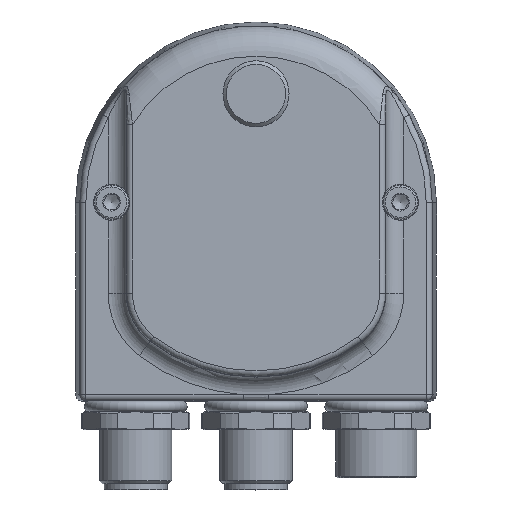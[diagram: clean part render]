
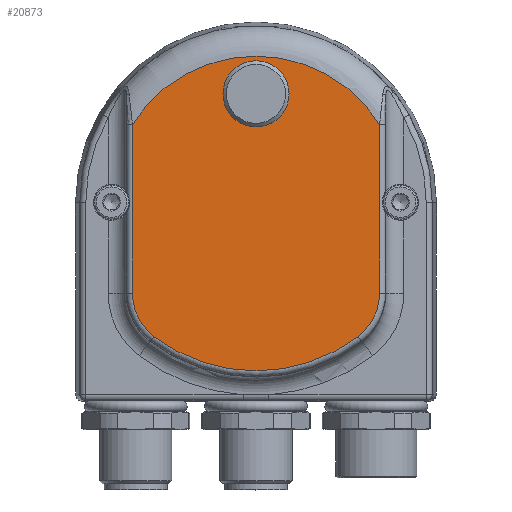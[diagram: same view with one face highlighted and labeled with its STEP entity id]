
A CAD part, top view. The second image highlights one B-rep face of the part: STEP entity #20873.
In plain terms, the highlighted planar face has unit normal (0, 0, 1).
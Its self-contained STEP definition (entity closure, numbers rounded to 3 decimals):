
#1109=PLANE('',#22256);
#1250=CIRCLE('',#21288,5.5);
#1646=CIRCLE('',#22257,24.265);
#1647=CIRCLE('',#22258,9.034);
#1648=CIRCLE('',#22259,28.034);
#1649=CIRCLE('',#22260,9.034);
#5113=ORIENTED_EDGE('',*,*,#6154,.T.);
#5114=ORIENTED_EDGE('',*,*,#7595,.T.);
#5115=ORIENTED_EDGE('',*,*,#7596,.T.);
#5116=ORIENTED_EDGE('',*,*,#7597,.T.);
#5117=ORIENTED_EDGE('',*,*,#7598,.T.);
#5118=ORIENTED_EDGE('',*,*,#7599,.T.);
#5119=ORIENTED_EDGE('',*,*,#7600,.T.);
#6154=EDGE_CURVE('',#8126,#8126,#1250,.T.);
#7595=EDGE_CURVE('',#9085,#9086,#10114,.T.);
#7596=EDGE_CURVE('',#9086,#9087,#1646,.T.);
#7597=EDGE_CURVE('',#9087,#9088,#10115,.T.);
#7598=EDGE_CURVE('',#9088,#9089,#1647,.T.);
#7599=EDGE_CURVE('',#9089,#9090,#1648,.T.);
#7600=EDGE_CURVE('',#9090,#9085,#1649,.T.);
#8126=VERTEX_POINT('',#27345);
#9085=VERTEX_POINT('',#36062);
#9086=VERTEX_POINT('',#36063);
#9087=VERTEX_POINT('',#36065);
#9088=VERTEX_POINT('',#36067);
#9089=VERTEX_POINT('',#36069);
#9090=VERTEX_POINT('',#36071);
#10114=LINE('',#36061,#10982);
#10115=LINE('',#36066,#10983);
#10982=VECTOR('',#25784,1000.);
#10983=VECTOR('',#25787,1000.);
#11974=EDGE_LOOP('',(#5113));
#11975=EDGE_LOOP('',(#5114,#5115,#5116,#5117,#5118,#5119));
#13127=FACE_BOUND('',#11974,.T.);
#13128=FACE_BOUND('',#11975,.T.);
#20873=ADVANCED_FACE('',(#13127,#13128),#1109,.T.);
#21288=AXIS2_PLACEMENT_3D('',#27344,#23128,#23129);
#22256=AXIS2_PLACEMENT_3D('',#36060,#25782,#25783);
#22257=AXIS2_PLACEMENT_3D('',#36064,#25785,#25786);
#22258=AXIS2_PLACEMENT_3D('',#36068,#25788,#25789);
#22259=AXIS2_PLACEMENT_3D('',#36070,#25790,#25791);
#22260=AXIS2_PLACEMENT_3D('',#36072,#25792,#25793);
#23128=DIRECTION('',(0.,0.,-1.));
#23129=DIRECTION('',(-1.,0.,0.));
#25782=DIRECTION('',(0.,0.,1.));
#25783=DIRECTION('',(1.,0.,0.));
#25784=DIRECTION('',(0.,1.,0.));
#25785=DIRECTION('',(0.,0.,1.));
#25786=DIRECTION('',(1.,0.,0.));
#25787=DIRECTION('',(0.,-1.,0.));
#25788=DIRECTION('',(0.,0.,1.));
#25789=DIRECTION('',(1.,0.,0.));
#25790=DIRECTION('',(0.,0.,1.));
#25791=DIRECTION('',(1.,0.,0.));
#25792=DIRECTION('',(0.,0.,1.));
#25793=DIRECTION('',(1.,0.,0.));
#27344=CARTESIAN_POINT('',(0.,18.,70.75));
#27345=CARTESIAN_POINT('',(-5.5,18.,70.75));
#36060=CARTESIAN_POINT('',(0.,0.,
70.75));
#36061=CARTESIAN_POINT('',(20.534,0.,70.75));
#36062=CARTESIAN_POINT('',(20.534,-15.124,70.75));
#36063=CARTESIAN_POINT('',(20.534,12.928,70.75));
#36064=CARTESIAN_POINT('',(0.,0.,
70.75));
#36065=CARTESIAN_POINT('',(-20.534,12.928,70.75));
#36066=CARTESIAN_POINT('',(-20.534,0.,70.75));
#36067=CARTESIAN_POINT('',(-20.534,-15.124,70.75));
#36068=CARTESIAN_POINT('',(-11.5,-15.124,70.75));
#36069=CARTESIAN_POINT('',(-16.968,-22.316,70.75));
#36070=CARTESIAN_POINT('',(0.,0.,
70.75));
#36071=CARTESIAN_POINT('',(16.968,-22.316,70.75));
#36072=CARTESIAN_POINT('',(11.5,-15.124,70.75));
